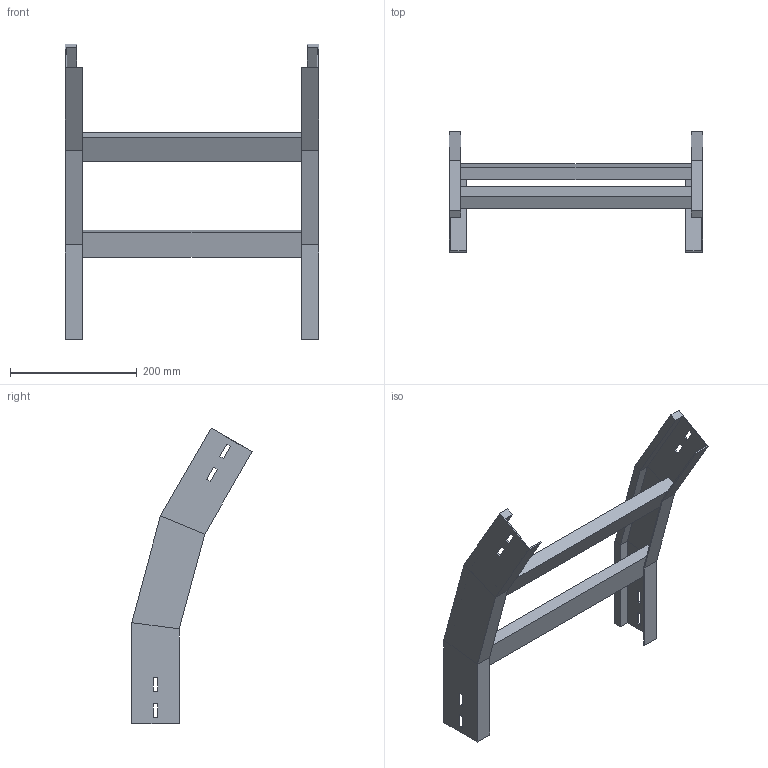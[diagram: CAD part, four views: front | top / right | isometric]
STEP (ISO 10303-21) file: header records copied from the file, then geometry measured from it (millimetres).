
FILE_DESCRIPTION (( 'STEP AP214' ), '1' );
FILE_NAME ('A2_35B3C400.step', '2025-02-21T14:49:53', ( '' ), ( '' ), 'SwSTEP 2.0', 'SolidWorks 2023', '' );
FILE_SCHEMA (( 'AUTOMOTIVE_DESIGN' ));
Length unit declared in the file: millimetre
Products named in the file (3): TRAVERSINO_400; A2_35B3C400; LONGH.DISCESA_30°_H75_R300
Assembly tree (5 placements, depth 2):
  A2_35B3C400
    LONGH.DISCESA_30°_H75_R300  x2
    TRAVERSINO_400  x3
Bounding box: 400 x 190.12 x 467.12 mm (x, y, z)
Volume: 1336466.1 mm3; surface area: 371860.5 mm2
Topology: 5 solids, 5 shells, 102 faces, 244 edges, 152 vertices
Faces by surface type: plane 102
Entity records: 1480 total; most frequent: CARTESIAN_POINT 244, ORIENTED_EDGE 232, DIRECTION 228, EDGE_CURVE 116, VECTOR 116, LINE 116, VERTEX_POINT 72, EDGE_LOOP 56
